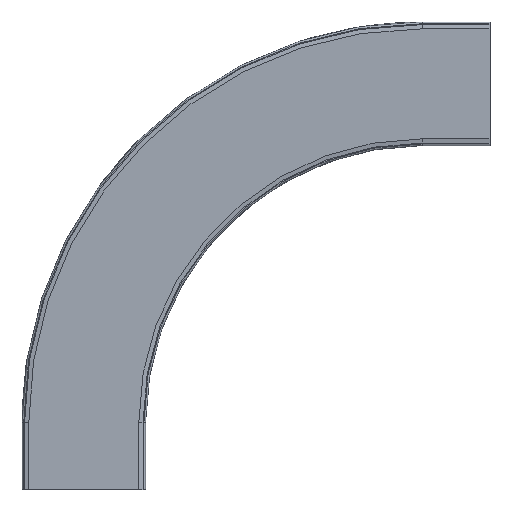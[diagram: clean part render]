
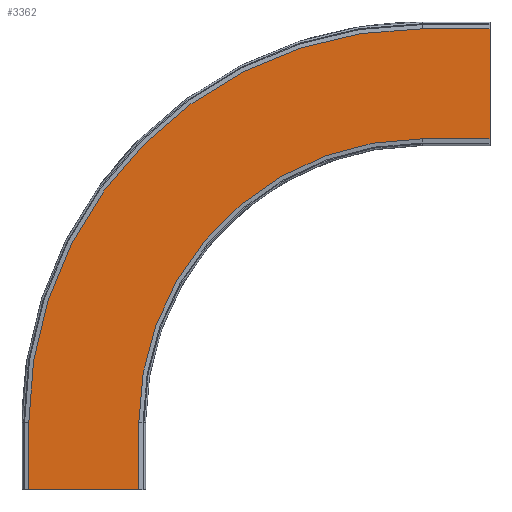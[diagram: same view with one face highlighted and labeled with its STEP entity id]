
A CAD part, front view. The second image highlights one B-rep face of the part: STEP entity #3362.
In plain terms, the highlighted planar face has unit normal (0, -1, 0).
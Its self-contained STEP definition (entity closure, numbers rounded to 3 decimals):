
#145=CIRCLE('',#3572,335.);
#146=CIRCLE('',#3574,465.);
#296=FACE_OUTER_BOUND('',#479,.T.);
#479=EDGE_LOOP('',(#2253,#2254,#2255,#2256,#2257,#2258,#2259,#2260));
#673=LINE('',#4694,#1031);
#677=LINE('',#4701,#1035);
#688=LINE('',#4734,#1046);
#689=LINE('',#4736,#1047);
#690=LINE('',#4737,#1048);
#691=LINE('',#4738,#1049);
#1031=VECTOR('',#3824,10.);
#1035=VECTOR('',#3830,10.);
#1046=VECTOR('',#3861,10.);
#1047=VECTOR('',#3862,10.);
#1048=VECTOR('',#3863,10.);
#1049=VECTOR('',#3864,10.);
#1389=VERTEX_POINT('',#4691);
#1390=VERTEX_POINT('',#4693);
#1392=VERTEX_POINT('',#4699);
#1401=VERTEX_POINT('',#4725);
#1402=VERTEX_POINT('',#4727);
#1403=VERTEX_POINT('',#4731);
#1404=VERTEX_POINT('',#4733);
#1405=VERTEX_POINT('',#4735);
#1721=EDGE_CURVE('',#1390,#1389,#673,.T.);
#1725=EDGE_CURVE('',#1392,#1389,#677,.T.);
#1738=EDGE_CURVE('',#1402,#1401,#145,.T.);
#1740=EDGE_CURVE('',#1403,#1392,#146,.T.);
#1741=EDGE_CURVE('',#1404,#1403,#688,.T.);
#1742=EDGE_CURVE('',#1404,#1405,#689,.T.);
#1743=EDGE_CURVE('',#1405,#1402,#690,.T.);
#1744=EDGE_CURVE('',#1401,#1390,#691,.T.);
#2253=ORIENTED_EDGE('',*,*,#1721,.T.);
#2254=ORIENTED_EDGE('',*,*,#1725,.F.);
#2255=ORIENTED_EDGE('',*,*,#1740,.F.);
#2256=ORIENTED_EDGE('',*,*,#1741,.F.);
#2257=ORIENTED_EDGE('',*,*,#1742,.T.);
#2258=ORIENTED_EDGE('',*,*,#1743,.T.);
#2259=ORIENTED_EDGE('',*,*,#1738,.T.);
#2260=ORIENTED_EDGE('',*,*,#1744,.T.);
#3239=PLANE('',#3573);
#3362=ADVANCED_FACE('',(#296),#3239,.T.);
#3572=AXIS2_PLACEMENT_3D('',#4728,#3854,#3855);
#3573=AXIS2_PLACEMENT_3D('',#4730,#3857,#3858);
#3574=AXIS2_PLACEMENT_3D('',#4732,#3859,#3860);
#3824=DIRECTION('',(0.,0.,1.));
#3830=DIRECTION('',(1.,0.,0.));
#3854=DIRECTION('center_axis',(0.,1.,0.));
#3855=DIRECTION('ref_axis',(-1.,0.,0.));
#3857=DIRECTION('center_axis',(0.,-1.,0.));
#3858=DIRECTION('ref_axis',(-1.,0.,0.));
#3859=DIRECTION('center_axis',(0.,1.,0.));
#3860=DIRECTION('ref_axis',(-1.,0.,0.));
#3861=DIRECTION('',(0.,0.,1.));
#3862=DIRECTION('',(1.,0.,0.));
#3863=DIRECTION('',(0.,0.,1.));
#3864=DIRECTION('',(1.,0.,0.));
#4691=CARTESIAN_POINT('',(519.001,-72.,545.));
#4693=CARTESIAN_POINT('',(519.001,-72.,415.));
#4694=CARTESIAN_POINT('',(519.001,-72.,449.));
#4699=CARTESIAN_POINT('',(439.001,-72.,545.));
#4701=CARTESIAN_POINT('',(-269.318,-72.,545.));
#4725=CARTESIAN_POINT('',(439.001,-72.,415.));
#4727=CARTESIAN_POINT('',(104.001,-72.,80.));
#4728=CARTESIAN_POINT('Origin',(439.001,-72.,80.));
#4730=CARTESIAN_POINT('Origin',(-269.318,-72.,415.));
#4731=CARTESIAN_POINT('',(-25.999,-72.,80.));
#4732=CARTESIAN_POINT('Origin',(439.001,-72.,80.));
#4733=CARTESIAN_POINT('',(-25.999,-72.,0.));
#4734=CARTESIAN_POINT('',(-25.999,-72.,0.));
#4735=CARTESIAN_POINT('',(104.001,-72.,0.));
#4736=CARTESIAN_POINT('',(-25.999,-72.,0.));
#4737=CARTESIAN_POINT('',(104.001,-72.,0.));
#4738=CARTESIAN_POINT('',(-269.318,-72.,415.));
